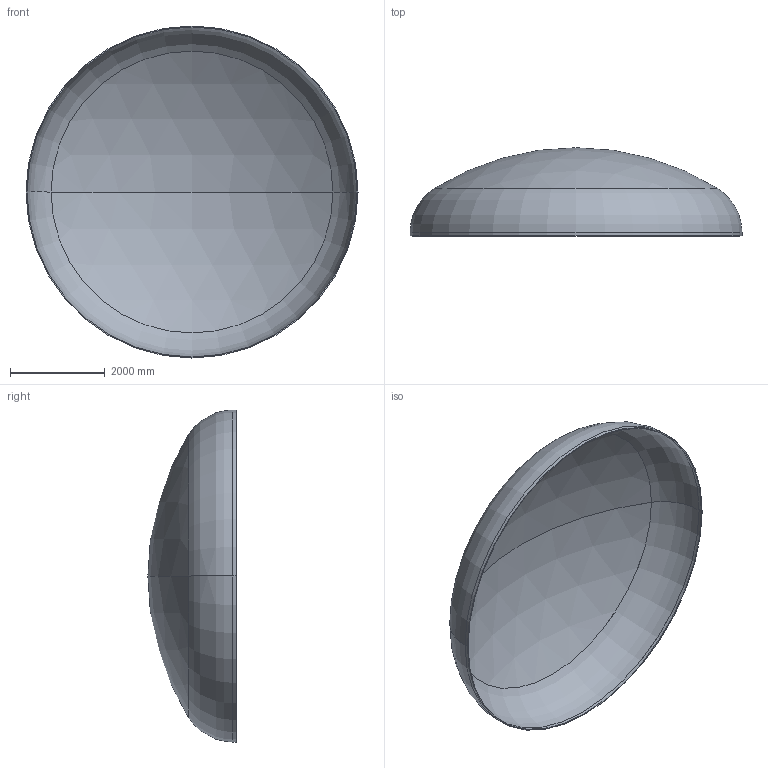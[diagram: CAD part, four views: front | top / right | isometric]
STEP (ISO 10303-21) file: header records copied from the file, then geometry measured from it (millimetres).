
FILE_DESCRIPTION (( 'STEP AP203' ), '1' );
FILE_NAME ('DIN 28013 Korbbogenform_-_Boden DIN 28013 - 7000 x 70 - I - s=21.step', '2016-07-04T10:45:49', ( '' ), ( '' ), 'SwSTEP 2.0', 'SolidWorks 2013', '' );
FILE_SCHEMA (( 'CONFIG_CONTROL_DESIGN' ));
Length unit declared in the file: millimetre
Products named in the file (1): DIN 28013 Korbbogenform_-_Boden DIN 28013 - 7000 x 70 - I - s=21
Bounding box: 7000 x 1860.18 x 7000 mm (x, y, z)
Volume: 1147589778.7 mm3; surface area: 109755572.6 mm2
Topology: 1 solids, 1 shells, 13 faces, 24 edges, 14 vertices
Faces by surface type: torus 4, cylinder 4, sphere 4, plane 1
Entity records: 407 total; most frequent: DIRECTION 72, CARTESIAN_POINT 52, ORIENTED_EDGE 48, AXIS2_PLACEMENT_3D 34, EDGE_CURVE 24, CIRCLE 20, EDGE_LOOP 14, VERTEX_POINT 14
